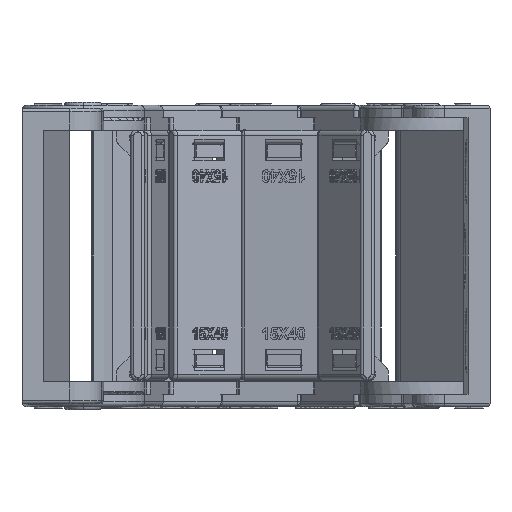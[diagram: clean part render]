
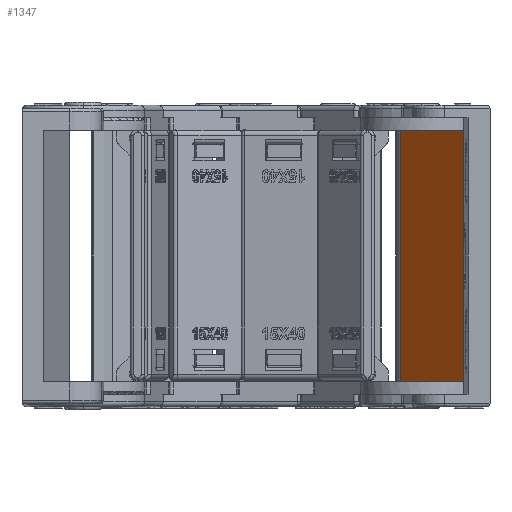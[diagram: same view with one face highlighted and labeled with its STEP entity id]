
A CAD part, left-side view. The second image highlights one B-rep face of the part: STEP entity #1347.
In plain terms, the highlighted planar face has unit normal (-0.667, 0.745, 0) as drawn and (0, 1, 0) by its records, which use the part's own axes.
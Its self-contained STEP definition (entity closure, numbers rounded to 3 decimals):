
#348 = EDGE_LOOP ( 'NONE', ( #10710, #2522, #26436, #32890 ) ) ;
#565 = EDGE_CURVE ( 'NONE', #20707, #4080, #29783, .T. ) ;
#1347 = ADVANCED_FACE ( 'NONE', ( #18639 ), #4878, .F. ) ;
#1589 = AXIS2_PLACEMENT_3D ( 'NONE', #20413, #1918, #23489 ) ;
#1918 = DIRECTION ( 'NONE',  ( 0., -1., 0. ) ) ;
#2522 = ORIENTED_EDGE ( 'NONE', *, *, #30349, .F. ) ;
#3656 = LINE ( 'NONE', #30998, #29262 ) ;
#4080 = VERTEX_POINT ( 'NONE', #7994 ) ;
#4163 = VERTEX_POINT ( 'NONE', #33104 ) ;
#4878 = PLANE ( 'NONE',  #1589 ) ;
#6640 = VERTEX_POINT ( 'NONE', #15815 ) ;
#7994 = CARTESIAN_POINT ( 'NONE',  ( -25.644, -7.95, -2. ) ) ;
#8814 = DIRECTION ( 'NONE',  ( 1., 0., 0. ) ) ;
#10032 = DIRECTION ( 'NONE',  ( 0., 0., 1. ) ) ;
#10710 = ORIENTED_EDGE ( 'NONE', *, *, #17830, .T. ) ;
#10815 = VECTOR ( 'NONE', #8814, 1000. ) ;
#12317 = EDGE_CURVE ( 'NONE', #20707, #6640, #19051, .T. ) ;
#14912 = CARTESIAN_POINT ( 'NONE',  ( -5.983, -7.95, -42. ) ) ;
#15622 = LINE ( 'NONE', #29376, #39230 ) ;
#15815 = CARTESIAN_POINT ( 'NONE',  ( -5.983, -7.95, -42. ) ) ;
#17830 = EDGE_CURVE ( 'NONE', #4080, #4163, #3656, .T. ) ;
#18639 = FACE_OUTER_BOUND ( 'NONE', #348, .T. ) ;
#19051 = LINE ( 'NONE', #14912, #10815 ) ;
#20413 = CARTESIAN_POINT ( 'NONE',  ( -5.983, -7.95, -22. ) ) ;
#20707 = VERTEX_POINT ( 'NONE', #25528 ) ;
#23489 = DIRECTION ( 'NONE',  ( 1., 0., 0. ) ) ;
#24637 = DIRECTION ( 'NONE',  ( 1., 0., 0. ) ) ;
#25435 = CARTESIAN_POINT ( 'NONE',  ( -25.644, -7.95, -22. ) ) ;
#25528 = CARTESIAN_POINT ( 'NONE',  ( -25.644, -7.95, -42. ) ) ;
#26436 = ORIENTED_EDGE ( 'NONE', *, *, #12317, .F. ) ;
#29262 = VECTOR ( 'NONE', #24637, 1000. ) ;
#29376 = CARTESIAN_POINT ( 'NONE',  ( -5.983, -7.95, -22. ) ) ;
#29783 = LINE ( 'NONE', #25435, #37020 ) ;
#30349 = EDGE_CURVE ( 'NONE', #6640, #4163, #15622, .T. ) ;
#30998 = CARTESIAN_POINT ( 'NONE',  ( -5.983, -7.95, -2. ) ) ;
#32493 = DIRECTION ( 'NONE',  ( 0., 0., 1. ) ) ;
#32890 = ORIENTED_EDGE ( 'NONE', *, *, #565, .T. ) ;
#33104 = CARTESIAN_POINT ( 'NONE',  ( -5.983, -7.95, -2. ) ) ;
#37020 = VECTOR ( 'NONE', #10032, 1000. ) ;
#39230 = VECTOR ( 'NONE', #32493, 1000. ) ;
